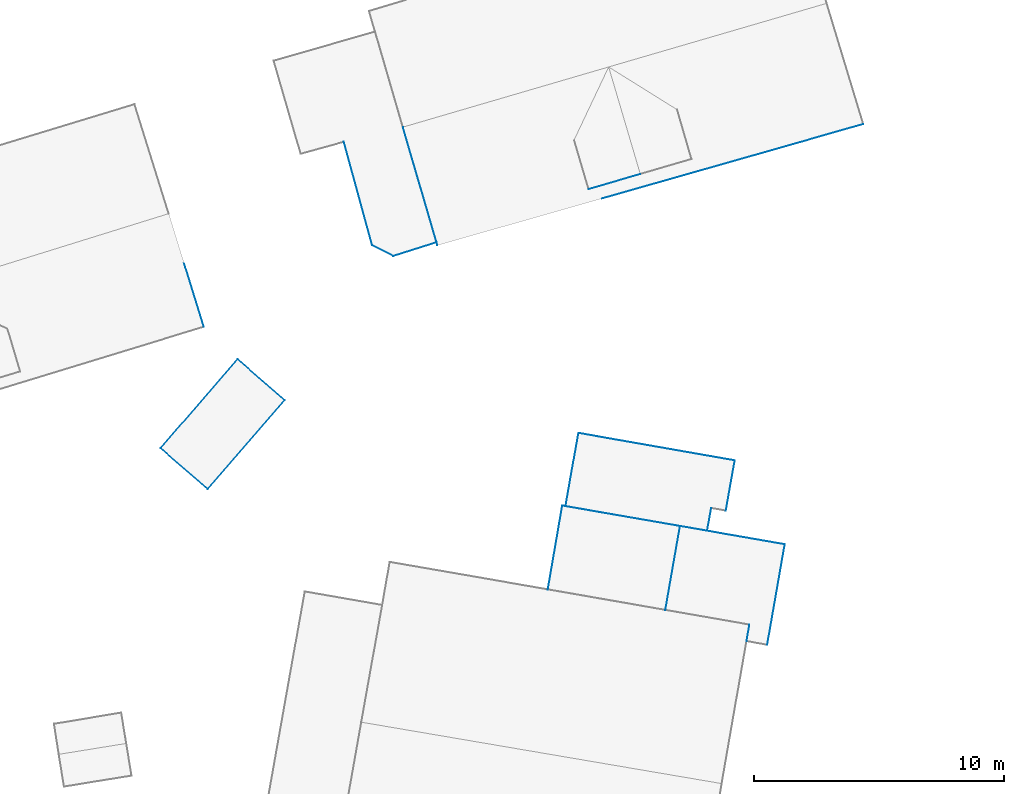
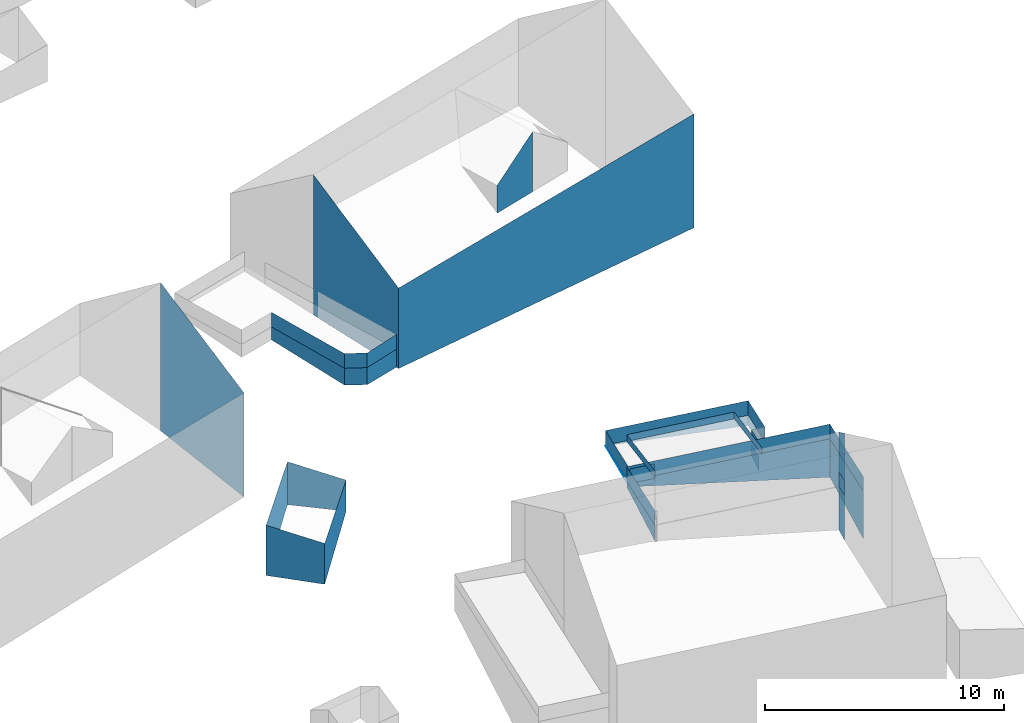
# Not in any storey, part 12 of 57: 54 walls.
"""IFC4 building model written with IfcOpenShell, lengths in metres."""

import ifcopenshell
import ifcopenshell.guid

model = None  # the IFC model being written
_history = None  # IfcOwnerHistory: only IFC2X3 demands one
_inside = {}  # id of a spatial element -> (the spatial element, [elements in it])
_under = {}  # id of a project, library or spatial element -> (it, [spatial elements below it])
_declared = {}  # id of a project -> (the project, [libraries it declares])
_typed = {}  # id of a type object -> (the type object, [elements of that type])
_made_of = {}  # id of a material, layer set ... -> (it, [elements and type objects made of it])


def new_model(schema):
    """Start an empty IFC model of exactly this schema.

    Asked for "IFC4X3", IfcOpenShell would pick the latest addendum, in which some entities
    have other attributes; the version numbers below select the first issue.
    IFC2X3 requires an IfcOwnerHistory on every rooted entity: one is made here for all.
    """
    global model, _history
    if schema == "IFC4X3":
        model = ifcopenshell.file(schema_version=(4, 3, 0, 0))
    else:
        model = ifcopenshell.file(schema=schema)
    _inside.clear()
    _under.clear()
    _declared.clear()
    _typed.clear()
    _made_of.clear()
    _history = None
    if model.schema == "IFC2X3":
        org = make("IfcOrganization", Name="unknown")
        user = make(
            "IfcPersonAndOrganization",
            ThePerson=make("IfcPerson", FamilyName="unknown"),
            TheOrganization=org,
        )
        app = make(
            "IfcApplication",
            ApplicationDeveloper=org,
            Version="unknown",
            ApplicationFullName="unknown",
            ApplicationIdentifier="unknown",
        )
        _history = make(
            "IfcOwnerHistory",
            OwningUser=user,
            OwningApplication=app,
            ChangeAction="ADDED",
            CreationDate=0,
        )
    return model


def make(cls, **values):
    """One entity of the class cls with the attributes given. An attribute that is None is left unset."""
    return model.create_entity(
        cls, **{name: value for name, value in values.items() if value is not None}
    )


def entity(cls, *values):
    """Any entity or typed value of the class cls, its attributes in the order of the schema. None: left unset."""
    e = model.create_entity(cls)
    for i, value in enumerate(values):
        if value is not None:
            e[i] = value
    return e


def rooted(cls, **values):
    """An entity with a GlobalId (a new one), such as an element, a storey or a relation."""
    return make(cls, GlobalId=ifcopenshell.guid.new(), OwnerHistory=_history, **values)


def si_unit(unit_type, name, prefix=None):
    """IfcSIUnit, for example si_unit("LENGTHUNIT", "METRE", prefix="MILLI")."""
    return make("IfcSIUnit", UnitType=unit_type, Prefix=prefix, Name=name)


def converted_unit(unit_type, name, factor, base, dimensions=None, offset=None):
    """IfcConversionBasedUnit, such as the inch: factor (a typed value) times the base unit."""
    return make(
        "IfcConversionBasedUnit"
        if offset is None
        else "IfcConversionBasedUnitWithOffset",
        ConversionOffset=offset,
        Dimensions=None
        if dimensions is None
        else entity("IfcDimensionalExponents", *dimensions),
        UnitType=unit_type,
        Name=name,
        ConversionFactor=make(
            "IfcMeasureWithUnit", ValueComponent=factor, UnitComponent=base
        ),
    )


def assignment(units):
    """IfcUnitAssignment: the units of a project."""
    return None if units is None else make("IfcUnitAssignment", Units=units)


def point(xyz):
    """IfcCartesianPoint."""
    return None if xyz is None else make("IfcCartesianPoint", Coordinates=xyz)


def direction(xyz):
    """IfcDirection."""
    return None if xyz is None else make("IfcDirection", DirectionRatios=xyz)


def frame(location, z_axis=None, x_axis=None):
    """IfcAxis2Placement3D, a coordinate frame: its origin and axes. An axis left out is left unset."""
    return make(
        "IfcAxis2Placement3D",
        Location=point(location),
        Axis=direction(z_axis),
        RefDirection=direction(x_axis),
    )


def origin():
    """The frame at (0, 0, 0) with its axes left unset."""
    return frame((0.0, 0.0, 0.0))


def place(relative_to, where):
    """IfcLocalPlacement: puts the frame where relative to a parent placement (None: the world)."""
    return make(
        "IfcLocalPlacement", PlacementRelTo=relative_to, RelativePlacement=where
    )


def context(
    kind, dimensions, precision=None, world=None, true_north=None, identifier=None
):
    """IfcGeometricRepresentationContext, for example the 3D "Model" context."""
    return make(
        "IfcGeometricRepresentationContext",
        ContextIdentifier=identifier,
        ContextType=kind,
        CoordinateSpaceDimension=dimensions,
        Precision=precision,
        WorldCoordinateSystem=world,
        TrueNorth=true_north,
    )


def subcontext(parent, identifier, kind, view, scale=None):
    """IfcGeometricRepresentationSubContext, for example "Body" below "Model"."""
    return make(
        "IfcGeometricRepresentationSubContext",
        ContextIdentifier=identifier,
        ContextType=kind,
        ParentContext=parent,
        TargetScale=scale,
        TargetView=view,
    )


def project(units=None, contexts=None):
    """IfcProject with its units and contexts."""
    return rooted(
        "IfcProject",
        Name="project",
        RepresentationContexts=contexts,
        UnitsInContext=assignment(units),
    )


def spatial(cls, under=None, at=None, **own):
    """A site, building, storey or space (cls), placed at a placement, below another one or the project."""
    s = rooted(cls, ObjectPlacement=at, **own)
    if under is not None:
        _under.setdefault(under.id(), (under, []))[1].append(s)
    return s


def faces_of(points, faces, orient=None, outer=None):
    """IfcFace entities. A face is a list of loops; a loop is a list of indices into points, from 0.

    orient and outer hold one flag for each loop. By default every Orientation is true, the
    first loop of a face is its IfcFaceOuterBound and the others are IfcFaceBound.
    """
    made = []
    for i, loops in enumerate(faces):
        bounds = []
        for j, loop in enumerate(loops):
            is_outer = j == 0 if outer is None else outer[i][j]
            bounds.append(
                make(
                    "IfcFaceOuterBound" if is_outer else "IfcFaceBound",
                    Bound=make("IfcPolyLoop", Polygon=[points[k] for k in loop]),
                    Orientation=True if orient is None else orient[i][j],
                )
            )
        made.append(make("IfcFace", Bounds=bounds))
    return made


def face_set(faces, orient=None, outer=None):
    """The faces of one IfcConnectedFaceSet. surface_model builds it on its shared points."""
    return ("IfcConnectedFaceSet", faces, orient, outer)


def surface_model(cls, points, shells):
    """IfcFaceBasedSurfaceModel or IfcShellBasedSurfaceModel (cls): surfaces that need not close."""
    shared = [point(p) for p in points]
    made = [make(c, CfsFaces=faces_of(shared, fs, o, b)) for c, fs, o, b in shells]
    if cls == "IfcFaceBasedSurfaceModel":
        return make(cls, FbsmFaces=made)
    return make(cls, SbsmBoundary=made)


def shape(context_of_items, identifier, shape_type, items):
    """IfcShapeRepresentation: the items that make up one representation, for example the "Body"."""
    return make(
        "IfcShapeRepresentation",
        ContextOfItems=context_of_items,
        RepresentationIdentifier=identifier,
        RepresentationType=shape_type,
        Items=items,
    )


def made_of(thing, what):
    """Note that an element or type object is made of a material, layer set ...; save() writes the relation."""
    if what is not None:
        _made_of.setdefault(what.id(), (what, []))[1].append(thing)
    return thing


def element(
    cls,
    number,
    at=None,
    inside=None,
    cuts=None,
    type_object=None,
    material=None,
    context=None,
    identifier="Body",
    shape_type=None,
    held_by="IfcProductDefinitionShape",
    body=None,
    shapes=None,
    **own,
):
    """One element of the class cls, such as IfcWall. Its Tag is "e" and its number.

    at: its placement. inside: the storey or other place that contains it. cuts: it is an
    opening in that element (IfcRelVoidsElement). A single representation is given by context,
    identifier, shape_type and body (its items); several are given by shapes. held_by: the class
    of the entity that holds the representations. save() writes the other relations.
    """
    e = rooted(cls, Tag="e%d" % number, ObjectPlacement=at, **own)
    if body is not None:
        shapes = [shape(context, identifier, shape_type, body)]
    if shapes is not None:
        e.Representation = make(held_by, Representations=shapes)
    if inside is not None:
        _inside.setdefault(inside.id(), (inside, []))[1].append(e)
    if cuts is not None:
        rooted(
            "IfcRelVoidsElement", RelatingBuildingElement=cuts, RelatedOpeningElement=e
        )
    if type_object is not None:
        _typed.setdefault(type_object.id(), (type_object, []))[1].append(e)
    return made_of(e, material)


def aggregate(whole, parts):
    """IfcRelAggregates: a whole, such as a stair, and the parts it consists of."""
    return rooted("IfcRelAggregates", RelatingObject=whole, RelatedObjects=parts)


def save(model, path):
    """Write the relations noted so far, then the file.

    IfcRelAggregates (storeys below a building ...), IfcRelContainedInSpatialStructure (elements
    in a storey), IfcRelDefinesByType, IfcRelAssociatesMaterial and IfcRelDeclares: one each for
    every whole, place, type object, material and project.
    """
    for whole, parts in _under.values():
        aggregate(whole, parts)
    for where, things in _inside.values():
        rooted(
            "IfcRelContainedInSpatialStructure",
            RelatedElements=things,
            RelatingStructure=where,
        )
    for kind, things in _typed.values():
        rooted("IfcRelDefinesByType", RelatedObjects=things, RelatingType=kind)
    for what, things in _made_of.values():
        rooted("IfcRelAssociatesMaterial", RelatedObjects=things, RelatingMaterial=what)
    for by, libraries in _declared.values():
        rooted("IfcRelDeclares", RelatingContext=by, RelatedDefinitions=libraries)
    model.write(path)


model = new_model("IFC4")

# Units and contexts
model_context = context("Model", 3, precision=1e-05, world=origin())
body_context = subcontext(model_context, "Body", "Model", "MODEL_VIEW")
ifc_project = project(units=[converted_unit("PLANEANGLEUNIT", "DEGREE", entity("IfcRatioMeasure", 0.0174532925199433), si_unit("PLANEANGLEUNIT", "RADIAN"), dimensions=[0, 0, 0, 0, 0, 0, 0]), si_unit("AREAUNIT", "SQUARE_METRE"), si_unit("LENGTHUNIT", "METRE")], contexts=[model_context])

# Site, building
site_placement = place(None, origin())
site = spatial("IfcSite", under=ifc_project, at=site_placement, Name="_site")
building_1_placement = place(site_placement, origin())
building_1 = spatial("IfcBuilding", under=site, at=building_1_placement, Name="_building")

# Walls
wall_1_placement = place(building_1_placement, origin())
element("IfcWall", 1, at=wall_1_placement, inside=building_1, Name="Wall", PredefinedType="NOTDEFINED", context=body_context, shape_type="SurfaceModel", body=[
    surface_model("IfcFaceBasedSurfaceModel", [(146.407, 107.333, 113.35), (143.323, 103.783, 113.35), (143.323, 103.783, 111.264), (146.407, 107.333, 111.759)], [face_set([[[0, 1, 2, 3]]])]),
])
wall_2_placement = place(building_1_placement, origin())
element("IfcWall", 2, at=wall_2_placement, inside=building_1, Name="Wall", PredefinedType="NOTDEFINED", context=body_context, shape_type="SurfaceModel", body=[
    surface_model("IfcFaceBasedSurfaceModel", [(144.525, 108.978, 113.95), (146.407, 107.333, 113.35), (146.407, 107.333, 111.759), (144.525, 108.978, 111.752)], [face_set([[[0, 1, 2, 3]]])]),
])
wall_3_placement = place(building_1_placement, origin())
element("IfcWall", 3, at=wall_3_placement, inside=building_1, Name="Wall", PredefinedType="NOTDEFINED", context=body_context, shape_type="SurfaceModel", body=[
    surface_model("IfcFaceBasedSurfaceModel", [(141.44, 105.418, 113.95), (144.525, 108.978, 113.95), (144.525, 108.978, 111.752), (141.44, 105.418, 111.381)], [face_set([[[0, 1, 2, 3]]])]),
])
wall_4_placement = place(building_1_placement, origin())
element("IfcWall", 4, at=wall_4_placement, inside=building_1, Name="Wall", PredefinedType="NOTDEFINED", context=body_context, shape_type="SurfaceModel", body=[
    surface_model("IfcFaceBasedSurfaceModel", [(143.323, 103.783, 113.35), (141.44, 105.418, 113.95), (141.44, 105.418, 111.381), (143.323, 103.783, 111.264)], [face_set([[[0, 1, 2, 3]]])]),
])

# Building
building_2_placement = place(site_placement, origin())
building_2 = spatial("IfcBuilding", under=site, at=building_2_placement, Name="_building")

# Walls
wall_5_placement = place(building_2_placement, origin())
element("IfcWall", 5, at=wall_5_placement, inside=building_2, Name="Wall", PredefinedType="NOTDEFINED", context=body_context, shape_type="SurfaceModel", body=[
    surface_model("IfcFaceBasedSurfaceModel", [(160.648, 116.395, 120.67), (158.583, 115.793, 119.0), (158.583, 115.793, 117.577), (160.648, 116.395, 117.584)], [face_set([[[0, 1, 2, 3]]])]),
])
wall_6_placement = place(building_2_placement, origin())
element("IfcWall", 6, at=wall_6_placement, inside=building_2, Name="Wall", PredefinedType="NOTDEFINED", context=body_context, shape_type="SurfaceModel", body=[
    surface_model("IfcFaceBasedSurfaceModel", [(150.765, 113.115, 114.06), (149.915, 113.545, 114.06), (149.915, 113.545, 113.204), (150.765, 113.115, 113.189)], [face_set([[[0, 1, 2, 3]]])]),
])
wall_7_placement = place(building_2_placement, origin())
element("IfcWall", 7, at=wall_7_placement, inside=building_2, Name="Wall", PredefinedType="NOTDEFINED", context=body_context, shape_type="SurfaceModel", body=[
    surface_model("IfcFaceBasedSurfaceModel", [(149.915, 113.545, 114.06), (148.781, 117.684, 114.06), (148.781, 117.684, 113.396), (149.915, 113.545, 113.204)], [face_set([[[0, 1, 2, 3]]])]),
])
wall_8_placement = place(building_2_placement, origin())
element("IfcWall", 8, at=wall_8_placement, inside=building_2, Name="Wall", PredefinedType="NOTDEFINED", context=body_context, shape_type="SurfaceModel", body=[
    surface_model("IfcFaceBasedSurfaceModel", [(169.581, 118.397, 117.21), (152.527, 113.543, 117.24), (152.527, 113.543, 113.134), (169.581, 118.397, 111.403)], [face_set([[[0, 1, 2, 3]]])]),
])
wall_9_placement = place(building_2_placement, origin())
element("IfcWall", 9, at=wall_9_placement, inside=building_2, Name="Wall", PredefinedType="NOTDEFINED", context=body_context, shape_type="SurfaceModel", body=[
    surface_model("IfcFaceBasedSurfaceModel", [(152.527, 113.543, 117.24), (151.147, 118.279, 120.64), (151.147, 118.279, 113.481), (152.527, 113.543, 113.134)], [face_set([[[0, 1, 2, 3]]])]),
])
wall_10_placement = place(building_2_placement, origin())
element("IfcWall", 10, at=wall_10_placement, inside=building_2, Name="Wall", PredefinedType="NOTDEFINED", context=body_context, shape_type="SurfaceModel", body=[
    surface_model("IfcFaceBasedSurfaceModel", [(152.489, 113.665, 114.06), (150.765, 113.115, 114.06), (150.765, 113.115, 113.189), (152.489, 113.665, 113.143)], [face_set([[[0, 1, 2, 3]]])]),
])
wall_11_placement = place(building_2_placement, origin())
element("IfcWall", 11, at=wall_11_placement, inside=building_2, Name="Wall", PredefinedType="NOTDEFINED", context=body_context, shape_type="SurfaceModel", body=[
    surface_model("IfcFaceBasedSurfaceModel", [(150.765, 113.115, 114.06), (149.915, 113.545, 114.06), (149.915, 113.545, 114.81), (150.765, 113.115, 114.81)], [face_set([[[0, 1, 2, 3]]])]),
])
wall_12_placement = place(building_2_placement, origin())
element("IfcWall", 12, at=wall_12_placement, inside=building_2, Name="Wall", PredefinedType="NOTDEFINED", context=body_context, shape_type="SurfaceModel", body=[
    surface_model("IfcFaceBasedSurfaceModel", [(149.915, 113.545, 114.06), (148.781, 117.684, 114.06), (148.781, 117.684, 114.81), (149.915, 113.545, 114.81)], [face_set([[[0, 1, 2, 3]]])]),
])
for number, where, name in (
    (13, (0.0, 0.0, 0.0), "Wall"),
    (14, (0.0, 0.0, 0.0), "Wall"),
):
    element("IfcWall", number, at=place(building_2_placement, frame(where)), inside=building_2, Name=name, PredefinedType="NOTDEFINED", context=body_context, shape_type="SurfaceModel", body=[
        surface_model("IfcFaceBasedSurfaceModel", [(152.489, 113.665, 114.06), (150.765, 113.115, 114.06), (150.765, 113.115, 114.81), (152.489, 113.665, 114.81)], [face_set([[[0, 1, 2, 3]]])]),
    ])
wall_13_placement = place(building_2_placement, origin())
element("IfcWall", 15, at=wall_13_placement, inside=building_2, Name="Wall", PredefinedType="NOTDEFINED", context=body_context, shape_type="SurfaceModel", body=[
    surface_model("IfcFaceBasedSurfaceModel", [(150.765, 113.115, 114.06), (149.915, 113.545, 114.06), (149.915, 113.545, 114.81), (150.765, 113.115, 114.81)], [face_set([[[0, 1, 2, 3]]])]),
])
wall_14_placement = place(building_2_placement, origin())
element("IfcWall", 16, at=wall_14_placement, inside=building_2, Name="Wall", PredefinedType="NOTDEFINED", context=body_context, shape_type="SurfaceModel", body=[
    surface_model("IfcFaceBasedSurfaceModel", [(149.915, 113.545, 114.06), (148.781, 117.684, 114.06), (148.781, 117.684, 114.81), (149.915, 113.545, 114.81)], [face_set([[[0, 1, 2, 3]]])]),
])

# Building
building_3_placement = place(site_placement, origin())
building_3 = spatial("IfcBuilding", under=site, at=building_3_placement, Name="_building")

# Wall
wall_15_placement = place(building_3_placement, origin())
element("IfcWall", 17, at=wall_15_placement, inside=building_3, Name="Wall", PredefinedType="NOTDEFINED", context=body_context, shape_type="SurfaceModel", body=[
    surface_model("IfcFaceBasedSurfaceModel", [(141.77, 114.816, 120.52), (143.174, 110.28, 117.15), (143.174, 110.28, 111.828), (141.77, 114.816, 112.95)], [face_set([[[0, 1, 2, 3]]])]),
])

# Building
building_4_placement = place(site_placement, origin())
building_4 = spatial("IfcBuilding", under=site, at=building_4_placement, Name="_building")

# Walls
wall_16_placement = place(building_4_placement, origin())
element("IfcWall", 18, at=wall_16_placement, inside=building_4, Name="Wall", PredefinedType="NOTDEFINED", context=body_context, shape_type="SurfaceModel", body=[
    surface_model("IfcFaceBasedSurfaceModel", [(162.239, 102.3, 114.33), (161.651, 98.941, 114.73), (161.651, 98.941, 114.38), (162.239, 102.3, 113.98)], [face_set([[[0, 1, 2, 3]]])]),
])
wall_17_placement = place(building_4_placement, origin())
element("IfcWall", 19, at=wall_17_placement, inside=building_4, Name="Wall", PredefinedType="NOTDEFINED", context=body_context, shape_type="SurfaceModel", body=[
    surface_model("IfcFaceBasedSurfaceModel", [(163.326, 102.114, 111.8), (157.655, 103.097, 111.8), (157.655, 103.097, 111.641), (163.326, 102.114, 111.059)], [face_set([[[0, 1, 2, 3]]])]),
])
wall_18_placement = place(building_4_placement, origin())
element("IfcWall", 20, at=wall_18_placement, inside=building_4, Name="Wall", PredefinedType="NOTDEFINED", context=body_context, shape_type="SurfaceModel", body=[
    surface_model("IfcFaceBasedSurfaceModel", [(157.526, 103.12, 111.94), (166.435, 101.571, 111.94), (166.435, 101.571, 109.975), (157.526, 103.12, 111.655)], [face_set([[[0, 1, 2, 3]]])]),
])
wall_19_placement = place(building_4_placement, origin())
element("IfcWall", 21, at=wall_19_placement, inside=building_4, Name="Wall", PredefinedType="NOTDEFINED", context=body_context, shape_type="SurfaceModel", body=[
    surface_model("IfcFaceBasedSurfaceModel", [(156.947, 99.762, 111.94), (157.526, 103.12, 111.94), (157.526, 103.12, 111.655), (156.947, 99.762, 111.134)], [face_set([[[0, 1, 2, 3]]])]),
])
wall_20_placement = place(building_4_placement, origin())
element("IfcWall", 22, at=wall_20_placement, inside=building_4, Name="Wall", PredefinedType="NOTDEFINED", context=body_context, shape_type="SurfaceModel", body=[
    surface_model("IfcFaceBasedSurfaceModel", [(166.435, 101.571, 111.94), (165.73, 97.545, 111.94), (165.73, 97.545, 109.511), (166.435, 101.571, 109.975)], [face_set([[[0, 1, 2, 3]]])]),
])
wall_21_placement = place(building_4_placement, origin())
element("IfcWall", 23, at=wall_21_placement, inside=building_4, Name="Wall", PredefinedType="NOTDEFINED", context=body_context, shape_type="SurfaceModel", body=[
    surface_model("IfcFaceBasedSurfaceModel", [(166.435, 101.571, 111.96), (165.73, 97.545, 111.96), (165.73, 97.545, 109.511), (166.435, 101.571, 109.975)], [face_set([[[0, 1, 2, 3]]])]),
])
wall_22_placement = place(building_4_placement, origin())
element("IfcWall", 24, at=wall_22_placement, inside=building_4, Name="Wall", PredefinedType="NOTDEFINED", context=body_context, shape_type="SurfaceModel", body=[
    surface_model("IfcFaceBasedSurfaceModel", [(157.526, 103.12, 111.96), (166.435, 101.571, 111.96), (166.435, 101.571, 109.975), (157.526, 103.12, 111.655)], [face_set([[[0, 1, 2, 3]]])]),
])
wall_23_placement = place(building_4_placement, origin())
element("IfcWall", 25, at=wall_23_placement, inside=building_4, Name="Wall", PredefinedType="NOTDEFINED", context=body_context, shape_type="SurfaceModel", body=[
    surface_model("IfcFaceBasedSurfaceModel", [(156.947, 99.762, 111.96), (157.526, 103.12, 111.96), (157.526, 103.12, 111.655), (156.947, 99.762, 111.134)], [face_set([[[0, 1, 2, 3]]])]),
])
for number, where, name in (
    (26, (0.0, 0.0, 0.0), "Wall"),
    (27, (0.0, 0.0, 0.0), "Wall"),
):
    element("IfcWall", number, at=place(building_4_placement, frame(where)), inside=building_4, Name=name, PredefinedType="NOTDEFINED", context=body_context, shape_type="SurfaceModel", body=[
        surface_model("IfcFaceBasedSurfaceModel", [(166.435, 101.571, 111.94), (165.73, 97.545, 111.94), (165.73, 97.545, 112.69), (166.435, 101.571, 112.69)], [face_set([[[0, 1, 2, 3]]])]),
    ])
wall_24_placement = place(building_4_placement, origin())
element("IfcWall", 28, at=wall_24_placement, inside=building_4, Name="Wall", PredefinedType="NOTDEFINED", context=body_context, shape_type="SurfaceModel", body=[
    surface_model("IfcFaceBasedSurfaceModel", [(162.239, 102.3, 114.33), (161.651, 98.941, 114.73), (161.651, 98.941, 114.38), (162.239, 102.3, 113.98)], [face_set([[[0, 1, 2, 3]]])]),
])

# Building
building_5_placement = place(site_placement, origin())
building_5 = spatial("IfcBuilding", under=site, at=building_5_placement, Name="_building")

# Walls
wall_25_placement = place(building_5_placement, origin())
element("IfcWall", 29, at=wall_25_placement, inside=building_5, Name="Wall", PredefinedType="NOTDEFINED", context=body_context, shape_type="SurfaceModel", body=[
    surface_model("IfcFaceBasedSurfaceModel", [(165.019, 98.352, 114.73), (164.903, 97.694, 115.11), (164.903, 97.694, 111.96), (165.019, 98.352, 111.96)], [face_set([[[0, 1, 2, 3]]])]),
])
wall_26_placement = place(building_5_placement, origin())
element("IfcWall", 30, at=wall_26_placement, inside=building_5, Name="Wall", PredefinedType="NOTDEFINED", context=body_context, shape_type="SurfaceModel", body=[
    surface_model("IfcFaceBasedSurfaceModel", [(164.903, 97.694, 111.94), (165.019, 98.352, 111.94), (165.019, 98.352, 109.727), (164.903, 97.694, 109.642)], [face_set([[[0, 1, 2, 3]]])]),
])
for number, where, name in (
    (31, (0.0, 0.0, 0.0), "Wall"),
    (32, (0.0, 0.0, 0.0), "Wall"),
):
    element("IfcWall", number, at=place(building_5_placement, frame(where)), inside=building_5, Name=name, PredefinedType="NOTDEFINED", context=body_context, shape_type="SurfaceModel", body=[
        surface_model("IfcFaceBasedSurfaceModel", [(164.903, 97.694, 111.94), (165.019, 98.352, 111.94), (165.019, 98.352, 112.69), (164.903, 97.694, 112.69)], [face_set([[[0, 1, 2, 3]]])]),
    ])

# Building
building_6_placement = place(site_placement, origin())
building_6 = spatial("IfcBuilding", under=site, at=building_6_placement, Name="_building")

# Walls
wall_27_placement = place(building_6_placement, origin())
element("IfcWall", 33, at=wall_27_placement, inside=building_6, Name="Wall", PredefinedType="NOTDEFINED", context=body_context, shape_type="SurfaceModel", body=[
    surface_model("IfcFaceBasedSurfaceModel", [(156.947, 99.762, 114.73), (157.526, 103.12, 114.33), (157.526, 103.12, 113.98), (156.947, 99.762, 114.38)], [face_set([[[0, 1, 2, 3]]])]),
])
wall_28_placement = place(building_6_placement, origin())
element("IfcWall", 34, at=wall_28_placement, inside=building_6, Name="Wall", PredefinedType="NOTDEFINED", context=body_context, shape_type="SurfaceModel", body=[
    surface_model("IfcFaceBasedSurfaceModel", [(157.526, 103.12, 114.33), (162.239, 102.3, 114.33), (162.239, 102.3, 113.98), (157.526, 103.12, 113.98)], [face_set([[[0, 1, 2, 3]]])]),
])
wall_29_placement = place(building_6_placement, origin())
element("IfcWall", 35, at=wall_29_placement, inside=building_6, Name="Wall", PredefinedType="NOTDEFINED", context=body_context, shape_type="SurfaceModel", body=[
    surface_model("IfcFaceBasedSurfaceModel", [(156.947, 99.762, 114.73), (157.526, 103.12, 114.33), (157.526, 103.12, 113.98), (156.947, 99.762, 114.38)], [face_set([[[0, 1, 2, 3]]])]),
])
wall_30_placement = place(building_6_placement, origin())
element("IfcWall", 36, at=wall_30_placement, inside=building_6, Name="Wall", PredefinedType="NOTDEFINED", context=body_context, shape_type="SurfaceModel", body=[
    surface_model("IfcFaceBasedSurfaceModel", [(163.487, 103.021, 111.8), (163.326, 102.114, 111.8), (163.326, 102.114, 111.059), (163.487, 103.021, 111.233)], [face_set([[[0, 1, 2, 3]]])]),
])
wall_31_placement = place(building_6_placement, origin())
element("IfcWall", 37, at=wall_31_placement, inside=building_6, Name="Wall", PredefinedType="NOTDEFINED", context=body_context, shape_type="SurfaceModel", body=[
    surface_model("IfcFaceBasedSurfaceModel", [(164.432, 104.93, 111.8), (164.075, 102.917, 111.8), (164.075, 102.917, 111.08), (164.432, 104.93, 111.281)], [face_set([[[0, 1, 2, 3]]])]),
])
wall_32_placement = place(building_6_placement, origin())
element("IfcWall", 38, at=wall_32_placement, inside=building_6, Name="Wall", PredefinedType="NOTDEFINED", context=body_context, shape_type="SurfaceModel", body=[
    surface_model("IfcFaceBasedSurfaceModel", [(158.174, 106.027, 111.8), (164.432, 104.93, 111.8), (164.432, 104.93, 111.281), (158.174, 106.027, 111.77)], [face_set([[[0, 1, 2, 3]]])]),
])
wall_33_placement = place(building_6_placement, origin())
element("IfcWall", 39, at=wall_33_placement, inside=building_6, Name="Wall", PredefinedType="NOTDEFINED", context=body_context, shape_type="SurfaceModel", body=[
    surface_model("IfcFaceBasedSurfaceModel", [(157.655, 103.097, 111.8), (158.174, 106.027, 111.8), (158.174, 106.027, 111.77), (157.655, 103.097, 111.641)], [face_set([[[0, 1, 2, 3]]])]),
])
wall_34_placement = place(building_6_placement, origin())
element("IfcWall", 40, at=wall_34_placement, inside=building_6, Name="Wall", PredefinedType="NOTDEFINED", context=body_context, shape_type="SurfaceModel", body=[
    surface_model("IfcFaceBasedSurfaceModel", [(163.326, 102.114, 111.8), (157.655, 103.097, 111.8), (157.655, 103.097, 112.55), (163.326, 102.114, 112.55)], [face_set([[[0, 1, 2, 3]]])]),
])
wall_35_placement = place(building_6_placement, origin())
element("IfcWall", 41, at=wall_35_placement, inside=building_6, Name="Wall", PredefinedType="NOTDEFINED", context=body_context, shape_type="SurfaceModel", body=[
    surface_model("IfcFaceBasedSurfaceModel", [(163.487, 103.021, 111.8), (163.326, 102.114, 111.8), (163.326, 102.114, 112.55), (163.487, 103.021, 112.55)], [face_set([[[0, 1, 2, 3]]])]),
])
wall_36_placement = place(building_6_placement, origin())
element("IfcWall", 42, at=wall_36_placement, inside=building_6, Name="Wall", PredefinedType="NOTDEFINED", context=body_context, shape_type="SurfaceModel", body=[
    surface_model("IfcFaceBasedSurfaceModel", [(164.432, 104.93, 111.8), (164.075, 102.917, 111.8), (164.075, 102.917, 112.55), (164.432, 104.93, 112.55)], [face_set([[[0, 1, 2, 3]]])]),
])
wall_37_placement = place(building_6_placement, origin())
element("IfcWall", 43, at=wall_37_placement, inside=building_6, Name="Wall", PredefinedType="NOTDEFINED", context=body_context, shape_type="SurfaceModel", body=[
    surface_model("IfcFaceBasedSurfaceModel", [(158.174, 106.027, 111.8), (164.432, 104.93, 111.8), (164.432, 104.93, 112.55), (158.174, 106.027, 112.55)], [face_set([[[0, 1, 2, 3]]])]),
])
wall_38_placement = place(building_6_placement, origin())
element("IfcWall", 44, at=wall_38_placement, inside=building_6, Name="Wall", PredefinedType="NOTDEFINED", context=body_context, shape_type="SurfaceModel", body=[
    surface_model("IfcFaceBasedSurfaceModel", [(157.655, 103.097, 111.8), (158.174, 106.027, 111.8), (158.174, 106.027, 112.55), (157.655, 103.097, 112.55)], [face_set([[[0, 1, 2, 3]]])]),
])
wall_39_placement = place(building_6_placement, origin())
element("IfcWall", 45, at=wall_39_placement, inside=building_6, Name="Wall", PredefinedType="NOTDEFINED", context=body_context, shape_type="SurfaceModel", body=[
    surface_model("IfcFaceBasedSurfaceModel", [(157.526, 103.12, 111.94), (166.435, 101.571, 111.94), (166.435, 101.571, 112.69), (157.526, 103.12, 112.69)], [face_set([[[0, 1, 2, 3]]])]),
])
wall_40_placement = place(building_6_placement, origin())
element("IfcWall", 46, at=wall_40_placement, inside=building_6, Name="Wall", PredefinedType="NOTDEFINED", context=body_context, shape_type="SurfaceModel", body=[
    surface_model("IfcFaceBasedSurfaceModel", [(156.947, 99.762, 111.94), (157.526, 103.12, 111.94), (157.526, 103.12, 112.69), (156.947, 99.762, 112.69)], [face_set([[[0, 1, 2, 3]]])]),
])
wall_41_placement = place(building_6_placement, origin())
element("IfcWall", 47, at=wall_41_placement, inside=building_6, Name="Wall", PredefinedType="NOTDEFINED", context=body_context, shape_type="SurfaceModel", body=[
    surface_model("IfcFaceBasedSurfaceModel", [(163.326, 102.114, 111.8), (157.655, 103.097, 111.8), (157.655, 103.097, 112.55), (163.326, 102.114, 112.55)], [face_set([[[0, 1, 2, 3]]])]),
])
wall_42_placement = place(building_6_placement, origin())
element("IfcWall", 48, at=wall_42_placement, inside=building_6, Name="Wall", PredefinedType="NOTDEFINED", context=body_context, shape_type="SurfaceModel", body=[
    surface_model("IfcFaceBasedSurfaceModel", [(163.487, 103.021, 111.8), (163.326, 102.114, 111.8), (163.326, 102.114, 112.55), (163.487, 103.021, 112.55)], [face_set([[[0, 1, 2, 3]]])]),
])
wall_43_placement = place(building_6_placement, origin())
element("IfcWall", 49, at=wall_43_placement, inside=building_6, Name="Wall", PredefinedType="NOTDEFINED", context=body_context, shape_type="SurfaceModel", body=[
    surface_model("IfcFaceBasedSurfaceModel", [(164.432, 104.93, 111.8), (164.075, 102.917, 111.8), (164.075, 102.917, 112.55), (164.432, 104.93, 112.55)], [face_set([[[0, 1, 2, 3]]])]),
])
wall_44_placement = place(building_6_placement, origin())
element("IfcWall", 50, at=wall_44_placement, inside=building_6, Name="Wall", PredefinedType="NOTDEFINED", context=body_context, shape_type="SurfaceModel", body=[
    surface_model("IfcFaceBasedSurfaceModel", [(158.174, 106.027, 111.8), (164.432, 104.93, 111.8), (164.432, 104.93, 112.55), (158.174, 106.027, 112.55)], [face_set([[[0, 1, 2, 3]]])]),
])
wall_45_placement = place(building_6_placement, origin())
element("IfcWall", 51, at=wall_45_placement, inside=building_6, Name="Wall", PredefinedType="NOTDEFINED", context=body_context, shape_type="SurfaceModel", body=[
    surface_model("IfcFaceBasedSurfaceModel", [(157.655, 103.097, 111.8), (158.174, 106.027, 111.8), (158.174, 106.027, 112.55), (157.655, 103.097, 112.55)], [face_set([[[0, 1, 2, 3]]])]),
])
wall_46_placement = place(building_6_placement, origin())
element("IfcWall", 52, at=wall_46_placement, inside=building_6, Name="Wall", PredefinedType="NOTDEFINED", context=body_context, shape_type="SurfaceModel", body=[
    surface_model("IfcFaceBasedSurfaceModel", [(157.526, 103.12, 111.94), (166.435, 101.571, 111.94), (166.435, 101.571, 112.69), (157.526, 103.12, 112.69)], [face_set([[[0, 1, 2, 3]]])]),
])
wall_47_placement = place(building_6_placement, origin())
element("IfcWall", 53, at=wall_47_placement, inside=building_6, Name="Wall", PredefinedType="NOTDEFINED", context=body_context, shape_type="SurfaceModel", body=[
    surface_model("IfcFaceBasedSurfaceModel", [(156.947, 99.762, 111.94), (157.526, 103.12, 111.94), (157.526, 103.12, 112.69), (156.947, 99.762, 112.69)], [face_set([[[0, 1, 2, 3]]])]),
])
wall_48_placement = place(building_6_placement, origin())
element("IfcWall", 54, at=wall_48_placement, inside=building_6, Name="Wall", PredefinedType="NOTDEFINED", context=body_context, shape_type="SurfaceModel", body=[
    surface_model("IfcFaceBasedSurfaceModel", [(157.526, 103.12, 114.33), (162.239, 102.3, 114.33), (162.239, 102.3, 113.98), (157.526, 103.12, 113.98)], [face_set([[[0, 1, 2, 3]]])]),
])

save(model, "model.ifc")
